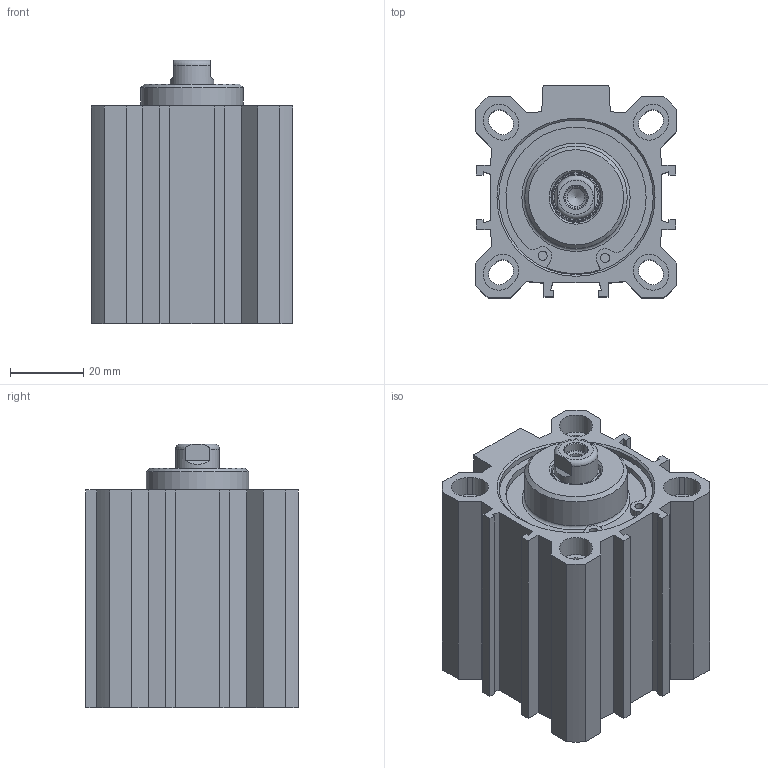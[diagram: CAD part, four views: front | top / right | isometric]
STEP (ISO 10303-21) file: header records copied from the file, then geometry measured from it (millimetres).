
FILE_DESCRIPTION(/* description */ ('Unknown'),/* implementation_level */ '2;1');
FILE_NAME(/* name */ 'FIN 40_20',/* time_stamp */ '2026-05-12T08:17:57+02:00',/* author */ ('Unknown'),/* organization */ ('Unknown'),/* preprocessor_version */ 'ST-DEVELOPER v18.102',/* originating_system */ 'Solid Edge',/* authorisation */ 'Unknown');
FILE_SCHEMA (('AUTOMOTIVE_DESIGN {1 0 10303 214 3 1 1}'));
Length unit declared in the file: millimetre
Products named in the file (5): FIN 40_20; Kit_1; Profilrohr; Kit_2; Kolbenstange
Assembly tree (4 placements, depth 2):
  FIN 40_20
    Kit_1
    Profilrohr
    Kit_2
    Kolbenstange
Bounding box: 55 x 58 x 72 mm (x, y, z)
Volume: 121358.8 mm3; surface area: 51005.8 mm2
Topology: 4 solids, 5 shells, 241 faces, 596 edges, 385 vertices
Faces by surface type: plane 130, cylinder 72, cone 26, torus 13
Full cylindrical faces by diameter (mm): 2.25 x2, 2.5 x4, 4.917 x2, 6.25 x1, 8.566 x4, 12 x2, 12.54 x1, 13.7 x1, 14 x1, 16.32 x1, 16.5 x1, 27.9 x1, 28 x1, 40 x2, 41.7 x4, 42.2 x2, 44.7 x2
Entity records: 8550 total; most frequent: CARTESIAN_POINT 1260, DIRECTION 1168, ORIENTED_EDGE 1022, EDGE_CURVE 511, AXIS2_PLACEMENT_3D 425, VERTEX_POINT 368, FACE_BOUND 347, EDGE_LOOP 346
